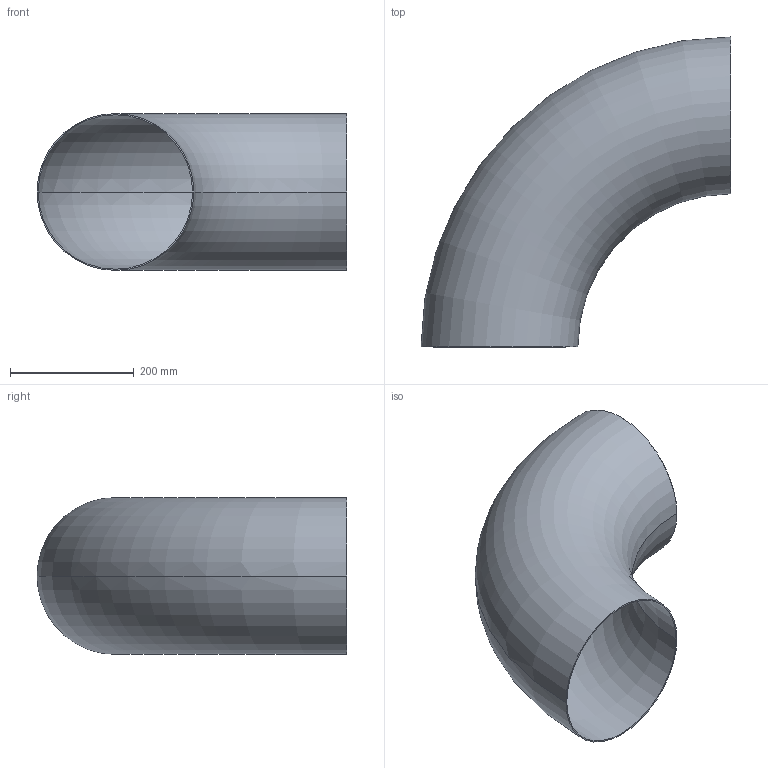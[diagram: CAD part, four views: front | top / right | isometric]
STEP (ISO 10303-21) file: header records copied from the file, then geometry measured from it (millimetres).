
FILE_DESCRIPTION (( 'STEP AP203' ), '1' );
FILE_NAME ('OT212-250-254x2_OSTP.step', '2020-12-16T03:03:01', ( '' ), ( '' ), 'SwSTEP 2.0', 'SolidWorks 2014', '' );
FILE_SCHEMA (( 'CONFIG_CONTROL_DESIGN' ));
Length unit declared in the file: millimetre
Products named in the file (1): OT212-250-254x2_OSTP
Bounding box: 502 x 502 x 254 mm (x, y, z)
Volume: 932677.6 mm3; surface area: 935844.3 mm2
Topology: 1 solids, 1 shells, 6 faces, 12 edges, 8 vertices
Faces by surface type: torus 4, plane 2
Entity records: 249 total; most frequent: DIRECTION 38, CARTESIAN_POINT 27, ORIENTED_EDGE 24, AXIS2_PLACEMENT_3D 19, EDGE_CURVE 12, CIRCLE 12, EDGE_LOOP 8, VERTEX_POINT 8
